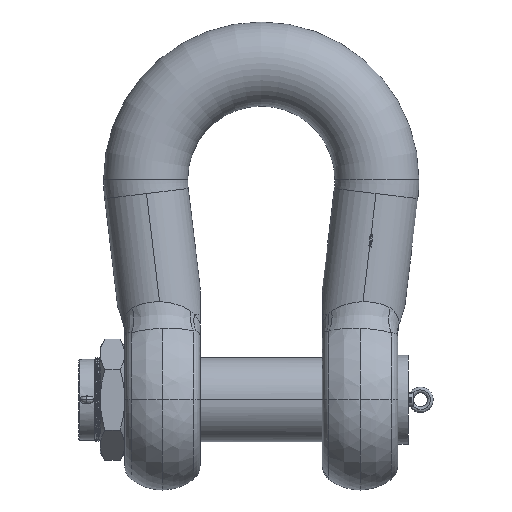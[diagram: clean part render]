
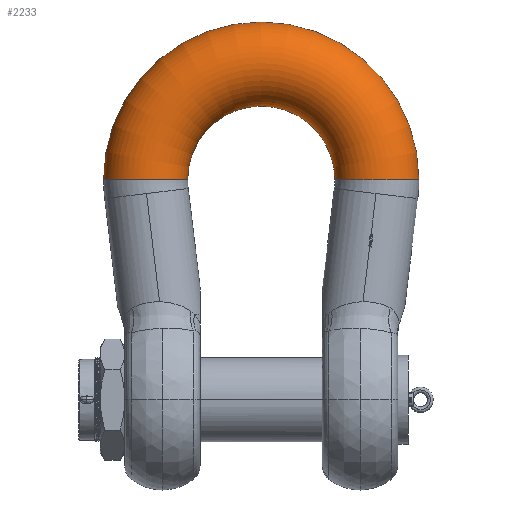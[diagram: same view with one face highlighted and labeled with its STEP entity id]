
A CAD part, front view. The second image highlights one B-rep face of the part: STEP entity #2233.
In plain terms, the highlighted toroidal (fillet/blend) face has major radius 330 mm and minor radius 119.995 mm.
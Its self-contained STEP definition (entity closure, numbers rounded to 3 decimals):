
#2233=ADVANCED_FACE('',(#5316),#5317,.T.);
#5316=FACE_OUTER_BOUND('',#11590,.T.);
#5317=TOROIDAL_SURFACE('',#11591,330.0,119.995);
#11590=EDGE_LOOP('',(#37061,#37062,#37063,#37064));
#11591=AXIS2_PLACEMENT_3D('',#37065,#37066,#37067);
#37061=ORIENTED_EDGE('',*,*,#49366,.T.);
#37062=ORIENTED_EDGE('',*,*,#49367,.F.);
#37063=ORIENTED_EDGE('',*,*,#49368,.T.);
#37064=ORIENTED_EDGE('',*,*,#49241,.F.);
#37065=CARTESIAN_POINT('',(0.0,0.0,628.0));
#37066=DIRECTION('',(0.0,-1.0,0.0));
#37067=DIRECTION('',(1.0,0.0,0.0));
#49241=EDGE_CURVE('',#57113,#57112,#57115,.F.);
#49366=EDGE_CURVE('',#57113,#57277,#57278,.F.);
#49367=EDGE_CURVE('',#57279,#57277,#57280,.T.);
#49368=EDGE_CURVE('',#57279,#57112,#57281,.T.);
#57112=VERTEX_POINT('',#72915);
#57113=VERTEX_POINT('',#72916);
#57115=CIRCLE('',#72918,119.995);
#57277=VERTEX_POINT('',#73256);
#57278=CIRCLE('',#73257,210.005);
#57279=VERTEX_POINT('',#73258);
#57280=B_SPLINE_CURVE_WITH_KNOTS('',5,(#73259,#73260,#73261,#73262,#73263,#73264,#73265,#73266,#73267,#73268,#73269,#73270,#73271,#73272,#73273,#73274,#73275,#73276,#73277,#73278,#73279,#73280,#73281,#73282),.UNSPECIFIED.,.F.,.F.,(6,3,3,3,3,3,3,6),(0.0,79.687,159.374,239.061,318.748,398.435,478.122,533.119),.UNSPECIFIED.);
#57281=CIRCLE('',#73283,449.995);
#72915=CARTESIAN_POINT('',(-449.995,0.0,628.0));
#72916=CARTESIAN_POINT('',(-210.005,0.,628.0));
#72918=AXIS2_PLACEMENT_3D('',#109044,#109045,#109046);
#73256=CARTESIAN_POINT('',(210.005,0.,628.0));
#73257=AXIS2_PLACEMENT_3D('',#109051,#109052,#109053);
#73258=CARTESIAN_POINT('',(449.995,0.0,628.0));
#73259=CARTESIAN_POINT('',(449.995,0.0,628.0));
#73260=CARTESIAN_POINT('',(449.995,-11.269,628.0));
#73261=CARTESIAN_POINT('',(448.672,-22.539,628.0));
#73262=CARTESIAN_POINT('',(446.026,-33.602,628.0));
#73263=CARTESIAN_POINT('',(438.186,-54.898,628.0));
#73264=CARTESIAN_POINT('',(425.627,-73.8,628.0));
#73265=CARTESIAN_POINT('',(418.261,-82.468,628.0));
#73266=CARTESIAN_POINT('',(401.633,-97.912,628.0));
#73267=CARTESIAN_POINT('',(381.881,-109.085,628.0));
#73268=CARTESIAN_POINT('',(371.39,-113.481,628.0));
#73269=CARTESIAN_POINT('',(349.573,-119.729,628.0));
#73270=CARTESIAN_POINT('',(326.902,-120.754,628.0));
#73271=CARTESIAN_POINT('',(315.558,-119.927,628.0));
#73272=CARTESIAN_POINT('',(293.275,-115.626,628.0));
#73273=CARTESIAN_POINT('',(272.595,-106.281,628.0));
#73274=CARTESIAN_POINT('',(262.852,-100.41,628.0));
#73275=CARTESIAN_POINT('',(244.928,-86.492,628.0));
#73276=CARTESIAN_POINT('',(230.715,-68.8,628.0));
#73277=CARTESIAN_POINT('',(224.683,-59.156,628.0));
#73278=CARTESIAN_POINT('',(216.498,-41.812,628.0));
#73279=CARTESIAN_POINT('',(211.896,-23.265,628.0));
#73280=CARTESIAN_POINT('',(210.635,-15.556,628.0));
#73281=CARTESIAN_POINT('',(210.005,-7.778,628.0));
#73282=CARTESIAN_POINT('',(210.005,0.,628.0));
#73283=AXIS2_PLACEMENT_3D('',#109054,#109055,#109056);
#109044=CARTESIAN_POINT('',(-330.0,0.0,628.0));
#109045=DIRECTION('',(0.,0.0,1.0));
#109046=DIRECTION('',(-1.0,0.0,0.));
#109051=CARTESIAN_POINT('',(0.0,0.,628.0));
#109052=DIRECTION('',(0.0,-1.0,0.0));
#109053=DIRECTION('',(-1.0,0.0,0.0));
#109054=CARTESIAN_POINT('',(0.0,0.,628.0));
#109055=DIRECTION('',(0.0,-1.0,0.0));
#109056=DIRECTION('',(-1.0,0.0,0.0));
